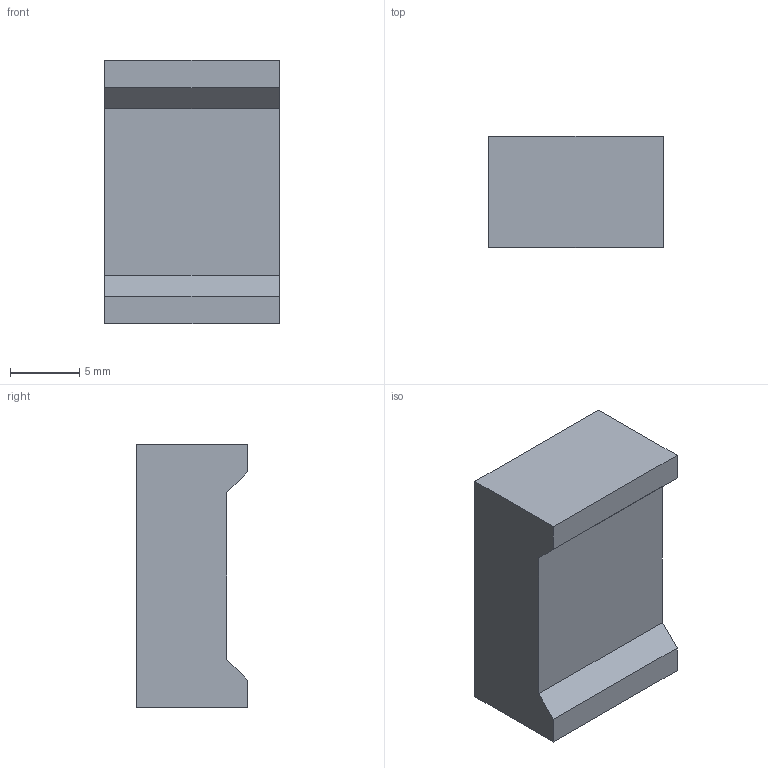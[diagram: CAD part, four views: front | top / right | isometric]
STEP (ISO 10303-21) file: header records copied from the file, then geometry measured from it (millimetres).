
FILE_DESCRIPTION (( 'STEP AP214' ), '1' );
FILE_NAME ('BL-S56A-11UR-10.STEP', '2015-07-08T17:55:04', ( 'ditsi' ), ( 'TEAM OS' ), 'SwSTEP 2.0', 'SolidWorks 2014', '' );
FILE_SCHEMA (( 'AUTOMOTIVE_DESIGN' ));
Length unit declared in the file: millimetre
Products named in the file (1): BL-S56A-11UR-10
Bounding box: 12.6 x 8 x 19 mm (x, y, z)
Volume: 1641.1 mm3; surface area: 986.4 mm2
Topology: 1 solids, 1 shells, 32 faces, 78 edges, 52 vertices
Faces by surface type: plane 26, cylinder 6
Entity records: 1001 total; most frequent: CARTESIAN_POINT 163, DIRECTION 156, ORIENTED_EDGE 156, EDGE_CURVE 78, VECTOR 66, LINE 66, VERTEX_POINT 52, AXIS2_PLACEMENT_3D 45
